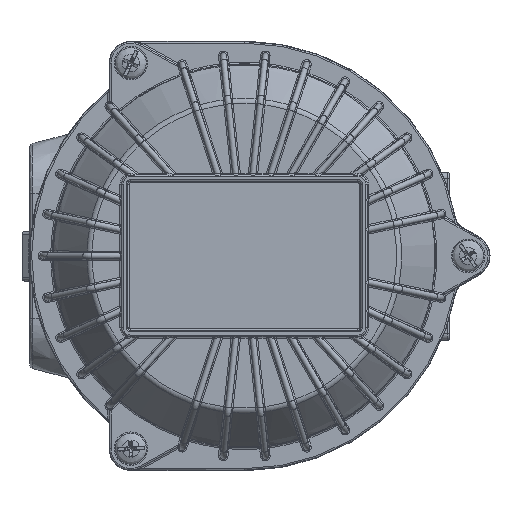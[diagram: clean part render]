
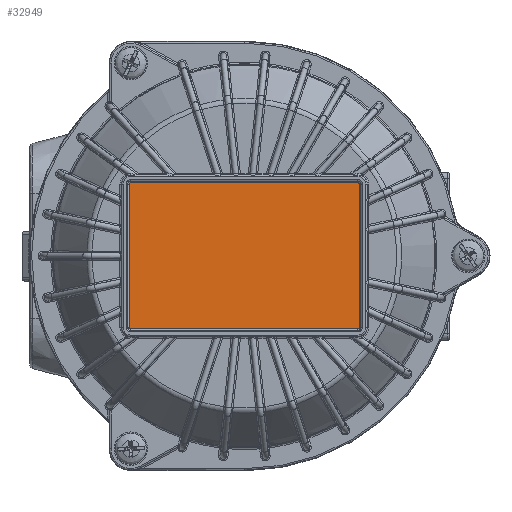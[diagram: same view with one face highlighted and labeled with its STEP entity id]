
A CAD part, top view. The second image highlights one B-rep face of the part: STEP entity #32949.
In plain terms, the highlighted planar face has unit normal (0, 0, 1).
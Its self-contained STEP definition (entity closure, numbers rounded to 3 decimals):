
#5076=PLANE('',#36099);
#7234=FACE_OUTER_BOUND('',#9322,.T.);
#9322=EDGE_LOOP('',(#29144,#29145,#29146,#29147,#29148,#29149,#29150,#29151));
#10789=LINE('',#78060,#11994);
#10791=LINE('',#78080,#11996);
#10793=LINE('',#78100,#11998);
#10795=LINE('',#78117,#12000);
#11994=VECTOR('',#43289,10.);
#11996=VECTOR('',#43301,10.);
#11998=VECTOR('',#43313,10.);
#12000=VECTOR('',#43323,10.);
#13722=CIRCLE('',#36074,0.5);
#13728=CIRCLE('',#36081,0.5);
#13732=CIRCLE('',#36086,0.5);
#13736=CIRCLE('',#36091,0.5);
#16551=VERTEX_POINT('',#78048);
#16552=VERTEX_POINT('',#78050);
#16554=VERTEX_POINT('',#78056);
#16556=VERTEX_POINT('',#78070);
#16558=VERTEX_POINT('',#78076);
#16560=VERTEX_POINT('',#78090);
#16562=VERTEX_POINT('',#78096);
#16564=VERTEX_POINT('',#78110);
#20962=EDGE_CURVE('',#16551,#16552,#13722,.T.);
#20967=EDGE_CURVE('',#16552,#16554,#10789,.T.);
#20970=EDGE_CURVE('',#16554,#16556,#13728,.T.);
#20973=EDGE_CURVE('',#16556,#16558,#10791,.T.);
#20976=EDGE_CURVE('',#16558,#16560,#13732,.T.);
#20979=EDGE_CURVE('',#16560,#16562,#10793,.T.);
#20982=EDGE_CURVE('',#16562,#16564,#13736,.T.);
#20984=EDGE_CURVE('',#16564,#16551,#10795,.T.);
#29144=ORIENTED_EDGE('',*,*,#20962,.F.);
#29145=ORIENTED_EDGE('',*,*,#20984,.F.);
#29146=ORIENTED_EDGE('',*,*,#20982,.F.);
#29147=ORIENTED_EDGE('',*,*,#20979,.F.);
#29148=ORIENTED_EDGE('',*,*,#20976,.F.);
#29149=ORIENTED_EDGE('',*,*,#20973,.F.);
#29150=ORIENTED_EDGE('',*,*,#20970,.F.);
#29151=ORIENTED_EDGE('',*,*,#20967,.F.);
#32949=ADVANCED_FACE('',(#7234),#5076,.T.);
#36074=AXIS2_PLACEMENT_3D('',#78051,#43278,#43279);
#36081=AXIS2_PLACEMENT_3D('',#78074,#43294,#43295);
#36086=AXIS2_PLACEMENT_3D('',#78094,#43306,#43307);
#36091=AXIS2_PLACEMENT_3D('',#78114,#43318,#43319);
#36099=AXIS2_PLACEMENT_3D('',#78136,#43343,#43344);
#43278=DIRECTION('center_axis',(0.,0.,
-1.));
#43279=DIRECTION('ref_axis',(0.707,0.707,0.));
#43289=DIRECTION('',(0.,-1.,0.));
#43294=DIRECTION('center_axis',(0.,0.,
-1.));
#43295=DIRECTION('ref_axis',(0.707,-0.707,0.));
#43301=DIRECTION('',(-1.,0.,0.));
#43306=DIRECTION('center_axis',(0.,0.,
-1.));
#43307=DIRECTION('ref_axis',(-0.707,-0.707,0.));
#43313=DIRECTION('',(0.,1.,0.));
#43318=DIRECTION('center_axis',(0.,0.,
-1.));
#43319=DIRECTION('ref_axis',(-0.707,0.707,0.));
#43323=DIRECTION('',(1.,0.,0.));
#43343=DIRECTION('center_axis',(0.,0.,
1.));
#43344=DIRECTION('ref_axis',(1.,0.,0.));
#78048=CARTESIAN_POINT('',(36.5,23.5,25.5));
#78050=CARTESIAN_POINT('',(37.,23.,25.5));
#78051=CARTESIAN_POINT('Origin',(36.5,23.,25.5));
#78056=CARTESIAN_POINT('',(37.,-23.,25.5));
#78060=CARTESIAN_POINT('',(37.,-11.5,25.5));
#78070=CARTESIAN_POINT('',(36.5,-23.5,25.5));
#78074=CARTESIAN_POINT('Origin',(36.5,-23.,25.5));
#78076=CARTESIAN_POINT('',(-36.5,-23.5,25.5));
#78080=CARTESIAN_POINT('',(-18.25,-23.5,25.5));
#78090=CARTESIAN_POINT('',(-37.,-23.,25.5));
#78094=CARTESIAN_POINT('Origin',(-36.5,-23.,25.5));
#78096=CARTESIAN_POINT('',(-37.,23.,25.5));
#78100=CARTESIAN_POINT('',(-37.,11.5,25.5));
#78110=CARTESIAN_POINT('',(-36.5,23.5,25.5));
#78114=CARTESIAN_POINT('Origin',(-36.5,23.,25.5));
#78117=CARTESIAN_POINT('',(18.25,23.5,25.5));
#78136=CARTESIAN_POINT('Origin',(0.,0.,
25.5));
